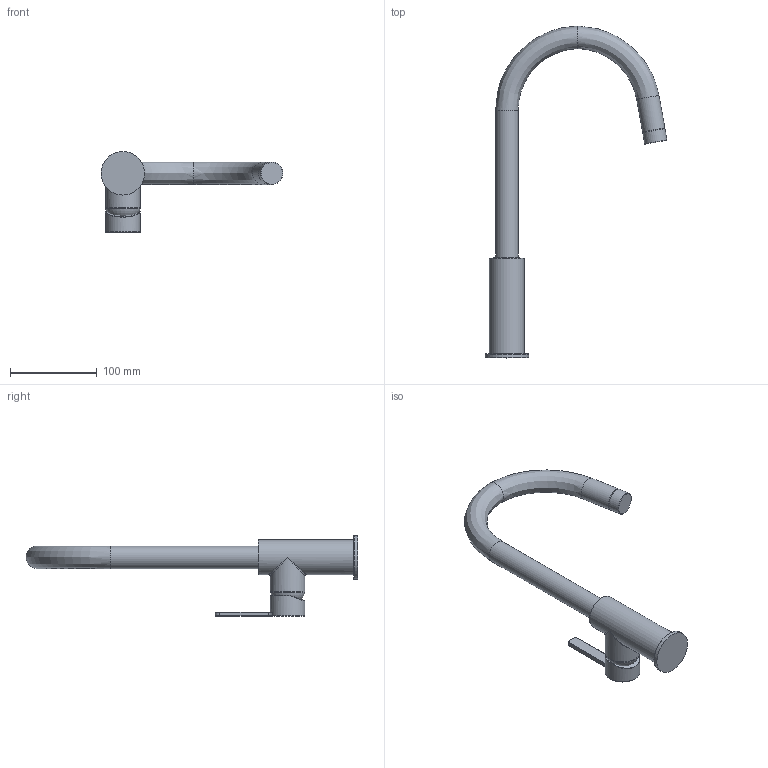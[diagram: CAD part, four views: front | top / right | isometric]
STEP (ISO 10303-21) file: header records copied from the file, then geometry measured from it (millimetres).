
FILE_DESCRIPTION(('STEP AP214'), '1');
FILE_NAME('92CR572LLFTKM', '2020-06-16T07:51:01', (''), (''), 'ASCON STEP Converter 1.3', 'ASCON Math Kernel', '');
FILE_SCHEMA(('AUTOMOTIVE_DESIGN { 1 0 10303 214 3 1 1}'));
Length unit declared in the file: millimetre
Bounding box: 209.18 x 381.97 x 93 mm (x, y, z)
Volume: 469858.1 mm3; surface area: 68158.1 mm2
Topology: 2 solids, 2 shells, 52 faces, 113 edges, 63 vertices
Faces by surface type: torus 18, cylinder 17, plane 12, bspline 5
Full cylindrical faces by diameter (mm): 26 x3, 40 x3, 50 x1
Entity records: 2507 total; most frequent: CARTESIAN_POINT 1016, DIRECTION 229, ORIENTED_EDGE 182, AXIS2_PLACEMENT_3D 104, EDGE_CURVE 91, EDGE_LOOP 72, VERTEX_POINT 63, CIRCLE 56
